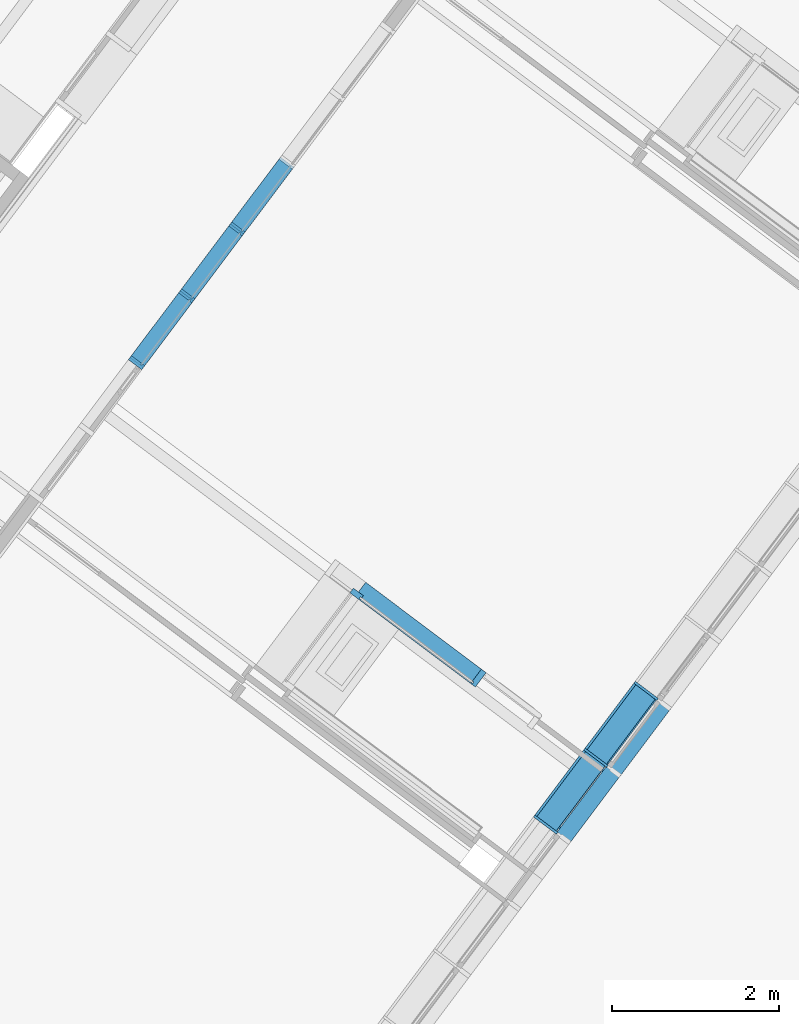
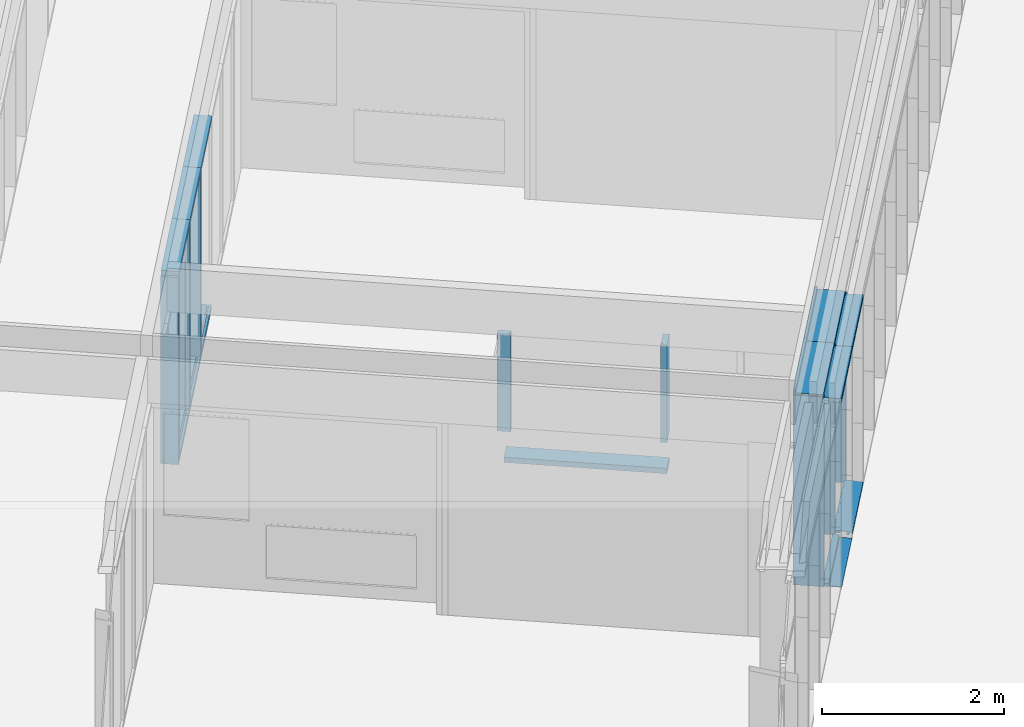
# One storey, part 13 of 243: 21 members, 4 elements without a shape of their own.
"""IFC2X3 building model written with IfcOpenShell, lengths in metres."""

from ifc_helpers import new_model, entity, si_unit, converted_unit, derived_unit, direction, frame, frame_2d, origin, place, context, subcontext, project, spatial, polyline, circle_curve, parameter, trimmed, segment, composite_curve, rectangle, outline, extrude, source, transform, mapped, material, type_object, type_shapes, element, aggregate, save


model = new_model("IFC2X3")

# Units and contexts
model_context = context("Model", 3, precision=1e-05, world=origin(), true_north=direction((6.123031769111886e-17, 1.0)))
body_context = subcontext(model_context, "Body", "Model", "MODEL_VIEW")
ifc_project = project(units=[si_unit("LENGTHUNIT", "METRE"), si_unit("AREAUNIT", "SQUARE_METRE"), si_unit("VOLUMEUNIT", "CUBIC_METRE"), converted_unit("PLANEANGLEUNIT", "DEGREE", entity("IfcRatioMeasure", 0.017453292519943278), si_unit("PLANEANGLEUNIT", "RADIAN"), dimensions=[0, 0, 0, 0, 0, 0, 0]), si_unit("MASSUNIT", "GRAM", prefix="KILO"), derived_unit("MASSDENSITYUNIT", [(si_unit("MASSUNIT", "GRAM", prefix="KILO"), 1), (si_unit("LENGTHUNIT", "METRE"), -3)]), derived_unit("IONCONCENTRATIONUNIT", [(si_unit("MASSUNIT", "GRAM", prefix="KILO"), 1), (si_unit("LENGTHUNIT", "METRE"), -3)]), derived_unit("MOMENTOFINERTIAUNIT", [(si_unit("LENGTHUNIT", "METRE"), 4)]), si_unit("TIMEUNIT", "SECOND"), si_unit("FREQUENCYUNIT", "HERTZ"), si_unit("THERMODYNAMICTEMPERATUREUNIT", "DEGREE_CELSIUS"), derived_unit("THERMALTRANSMITTANCEUNIT", [(si_unit("MASSUNIT", "GRAM", prefix="KILO"), 1), (si_unit("THERMODYNAMICTEMPERATUREUNIT", "KELVIN"), -1), (si_unit("TIMEUNIT", "SECOND"), -3)]), derived_unit("THERMALCONDUCTANCEUNIT", [(si_unit("MASSUNIT", "GRAM", prefix="KILO"), 1), (si_unit("THERMODYNAMICTEMPERATUREUNIT", "KELVIN"), -1), (si_unit("TIMEUNIT", "SECOND"), -3), (si_unit("LENGTHUNIT", "METRE"), 1)]), derived_unit("VOLUMETRICFLOWRATEUNIT", [(si_unit("LENGTHUNIT", "METRE"), 3), (si_unit("TIMEUNIT", "SECOND"), -1)]), derived_unit("MASSFLOWRATEUNIT", [(si_unit("MASSUNIT", "GRAM", prefix="KILO"), 1), (si_unit("TIMEUNIT", "SECOND"), -1)]), derived_unit("ROTATIONALFREQUENCYUNIT", [(si_unit("TIMEUNIT", "SECOND"), -1)]), si_unit("ELECTRICCURRENTUNIT", "AMPERE"), si_unit("ELECTRICVOLTAGEUNIT", "VOLT"), si_unit("POWERUNIT", "WATT"), si_unit("FORCEUNIT", "NEWTON", prefix="KILO"), si_unit("ILLUMINANCEUNIT", "LUX"), si_unit("LUMINOUSFLUXUNIT", "LUMEN"), si_unit("LUMINOUSINTENSITYUNIT", "CANDELA"), derived_unit("USERDEFINED", [(si_unit("MASSUNIT", "GRAM", prefix="KILO"), -1), (si_unit("LENGTHUNIT", "METRE"), -2), (si_unit("TIMEUNIT", "SECOND"), 3), (si_unit("LUMINOUSFLUXUNIT", "LUMEN"), 1)]), derived_unit("USERDEFINED", [(si_unit("MASSUNIT", "GRAM", prefix="KILO"), 1), (si_unit("TIMEUNIT", "SECOND"), -3), (si_unit("LENGTHUNIT", "METRE"), 3), (si_unit("ELECTRICCURRENTUNIT", "AMPERE"), -2)]), derived_unit("SOUNDPOWERUNIT", [(si_unit("MASSUNIT", "GRAM", prefix="KILO"), 1), (si_unit("TIMEUNIT", "SECOND"), -3), (si_unit("LENGTHUNIT", "METRE"), 2)]), derived_unit("SOUNDPRESSUREUNIT", [(si_unit("MASSUNIT", "GRAM", prefix="KILO"), 1), (si_unit("LENGTHUNIT", "METRE"), -1), (si_unit("TIMEUNIT", "SECOND"), -2)]), derived_unit("LINEARVELOCITYUNIT", [(si_unit("LENGTHUNIT", "METRE"), 1), (si_unit("TIMEUNIT", "SECOND"), -1)]), si_unit("PRESSUREUNIT", "PASCAL"), derived_unit("USERDEFINED", [(si_unit("MASSUNIT", "GRAM", prefix="KILO"), 1), (si_unit("LENGTHUNIT", "METRE"), -2), (si_unit("TIMEUNIT", "SECOND"), -2)]), derived_unit("LINEARFORCEUNIT", [(si_unit("MASSUNIT", "GRAM", prefix="KILO"), 1), (si_unit("TIMEUNIT", "SECOND"), -2)]), derived_unit("PLANARFORCEUNIT", [(si_unit("MASSUNIT", "GRAM", prefix="KILO"), 1), (si_unit("LENGTHUNIT", "METRE"), -1), (si_unit("TIMEUNIT", "SECOND"), -2)]), derived_unit("SPECIFICHEATCAPACITYUNIT", [(si_unit("THERMODYNAMICTEMPERATUREUNIT", "KELVIN"), -1), (si_unit("LENGTHUNIT", "METRE"), 2), (si_unit("TIMEUNIT", "SECOND"), -2)]), derived_unit("HEATINGVALUEUNIT", [(si_unit("LENGTHUNIT", "METRE"), 2), (si_unit("TIMEUNIT", "SECOND"), -2)]), derived_unit("VAPORPERMEABILITYUNIT", [(si_unit("LENGTHUNIT", "METRE"), -1), (si_unit("TIMEUNIT", "SECOND"), 1)]), derived_unit("DYNAMICVISCOSITYUNIT", [(si_unit("MASSUNIT", "GRAM", prefix="KILO"), 1), (si_unit("TIMEUNIT", "SECOND"), -1), (si_unit("LENGTHUNIT", "METRE"), -1)]), derived_unit("THERMALEXPANSIONCOEFFICIENTUNIT", [(si_unit("THERMODYNAMICTEMPERATUREUNIT", "KELVIN"), -1)]), derived_unit("MODULUSOFELASTICITYUNIT", [(si_unit("MASSUNIT", "GRAM", prefix="KILO"), 1), (si_unit("LENGTHUNIT", "METRE"), -1), (si_unit("TIMEUNIT", "SECOND"), -2)]), derived_unit("ISOTHERMALMOISTURECAPACITYUNIT", [(si_unit("LENGTHUNIT", "METRE"), 3), (si_unit("MASSUNIT", "GRAM", prefix="KILO"), -1)]), derived_unit("MOISTUREDIFFUSIVITYUNIT", [(si_unit("TIMEUNIT", "SECOND"), -1), (si_unit("LENGTHUNIT", "METRE"), 2)])], contexts=[model_context])

# Site, building, storey
site_placement = place(None, frame((0.0, 0.0, 235.0), z_axis=(0.0, 0.0, 1.0), x_axis=(-0.7996477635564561, 0.6004693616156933, 0.0)))
site = spatial("IfcSite", under=ifc_project, at=site_placement, Name="Default", CompositionType="ELEMENT")
building_placement = place(site_placement, origin())
building = spatial("IfcBuilding", under=site, at=building_placement, CompositionType="ELEMENT")
storey_placement = place(building_placement, origin())
storey = spatial("IfcBuildingStorey", under=building, at=storey_placement, Name="P0- Escola", CompositionType="ELEMENT", Elevation=0.0)

# Curtain wall, members
curtain_wall_type_1 = type_object("IfcCurtainWallType", Name="Muro cortina:MC- INT- a3", PredefinedType="NOTDEFINED")
curtain_wall_1_placement = place(storey_placement, origin())
curtain_wall_1 = element("IfcCurtainWall", 1, at=curtain_wall_1_placement, inside=storey, type_object=curtain_wall_type_1, Name="Muro cortina:MC- INT- a3", ObjectType="Muro cortina:MC- INT- a3")
ifc_material_1 = material(Name="_Fusta massisa- T1")
member_type_1 = type_object("IfcMemberType", Name="Montante rectangular:MC- Fusta- 20x6 cm- Centre", PredefinedType="MULLION", material=ifc_material_1)
shared_shape_1 = source(origin(), body_context, "Body", "SweptSolid", [
    extrude(outline(polyline([(-0.14, -0.03), (0.009999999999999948, -0.03), (0.009999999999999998, -0.014999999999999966), (0.030000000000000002, -0.015), (0.030000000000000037, -0.030000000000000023), (0.060000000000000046, -0.029999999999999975), (0.059999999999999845, 0.030000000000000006), (0.030000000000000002, 0.029999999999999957), (0.030000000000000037, 0.015), (0.010000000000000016, 0.015), (0.010000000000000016, 0.03), (-0.14, 0.03), (-0.14, -0.03)])), frame((0.0, 0.019999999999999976, -2.505000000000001), z_axis=(0.0, 0.0, 1.0), x_axis=(0.0, -1.0, 0.0)), (0.0, 0.0, 1.0), 2.5050000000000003),
])
type_shapes(member_type_1, [shared_shape_1])
member_1_placement = place(curtain_wall_1_placement, frame((13.279147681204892, -30.470191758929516, 0.0), z_axis=(0.0, 0.0, -1.0), x_axis=(0.0, 1.0, 0.0)))
member_1 = element("IfcMember", 2, at=member_1_placement, type_object=member_type_1, material=ifc_material_1, Name="Montante rectangular:MC- Fusta- 20x6 cm- Centre", ObjectType="Montante rectangular:MC- Fusta- 20x6 cm- Centre", context=body_context, shape_type="MappedRepresentation", body=[
    mapped(shared_shape_1, transform((0.0, 0.0, 0.0), scale=1.0)),
])
member_2_placement = place(curtain_wall_1_placement, frame((13.27914768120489, -29.470191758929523, 0.0), z_axis=(0.0, 0.0, -1.0), x_axis=(0.0, 1.0, 0.0)))
member_2 = element("IfcMember", 3, at=member_2_placement, type_object=member_type_1, material=ifc_material_1, Name="Montante rectangular:MC- Fusta- 20x6 cm- Centre", ObjectType="Montante rectangular:MC- Fusta- 20x6 cm- Centre", context=body_context, shape_type="MappedRepresentation", body=[
    mapped(shared_shape_1, transform((0.0, 0.0, 0.0), scale=1.0)),
])
member_type_2 = type_object("IfcMemberType", Name="Montante rectangular:MC- Fusta- 20x6 cm- Esquerra", PredefinedType="MULLION", material=ifc_material_1)
shared_shape_2 = source(origin(), body_context, "Body", "SweptSolid", [
    extrude(outline(polyline([(-0.12999999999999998, -0.018750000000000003), (0.019999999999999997, -0.018750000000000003), (0.019999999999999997, -0.003750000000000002), (0.04000000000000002, -0.003750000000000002), (0.04000000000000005, -0.01875000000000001), (0.07000000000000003, -0.018750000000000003), (0.06999999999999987, 0.041249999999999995), (-0.12999999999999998, 0.041249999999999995), (-0.12999999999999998, -0.018750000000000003)])), frame((-0.041249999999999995, 0.029999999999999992, -1.0), z_axis=(0.0, 0.0, 1.0), x_axis=(0.0, -1.0, 0.0)), (0.0, 0.0, 1.0), 0.9999999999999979),
])
type_shapes(member_type_2, [shared_shape_2])
member_3_placement = place(curtain_wall_1_placement, frame((13.279147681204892, -30.470191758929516, 2.565), z_axis=(0.0, 1.0, 0.0), x_axis=(0.0, 0.0, 1.0)))
member_3 = element("IfcMember", 4, at=member_3_placement, type_object=member_type_2, material=ifc_material_1, Name="Montante rectangular:MC- Fusta- 20x6 cm- Esquerra", ObjectType="Montante rectangular:MC- Fusta- 20x6 cm- Esquerra", context=body_context, shape_type="MappedRepresentation", body=[
    mapped(shared_shape_2, transform((0.0, 0.0, 0.0), scale=1.0)),
])
member_4_placement = place(curtain_wall_1_placement, frame((13.27914768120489, -29.47019175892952, 2.565), z_axis=(0.0, 1.0, 0.0), x_axis=(0.0, 0.0, 1.0)))
member_4 = element("IfcMember", 5, at=member_4_placement, type_object=member_type_2, material=ifc_material_1, Name="Montante rectangular:MC- Fusta- 20x6 cm- Esquerra", ObjectType="Montante rectangular:MC- Fusta- 20x6 cm- Esquerra", context=body_context, shape_type="MappedRepresentation", body=[
    mapped(shared_shape_2, transform((0.0, 0.0, 0.0), scale=1.0)),
])
member_5_placement = place(curtain_wall_1_placement, frame((13.279147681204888, -28.47019175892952, 2.565), z_axis=(0.0, 1.0, 0.0), x_axis=(0.0, 0.0, 1.0)))
member_5 = element("IfcMember", 6, at=member_5_placement, type_object=member_type_2, material=ifc_material_1, Name="Montante rectangular:MC- Fusta- 20x6 cm- Esquerra", ObjectType="Montante rectangular:MC- Fusta- 20x6 cm- Esquerra", context=body_context, shape_type="MappedRepresentation", body=[
    mapped(shared_shape_2, transform((0.0, 0.0, 0.0), scale=1.0)),
])
member_type_3 = type_object("IfcMemberType", Name="Montante rectangular:MC- Fusta- 20x6 cm- Esquerra", PredefinedType="MULLION", material=ifc_material_1)
shared_shape_3 = source(origin(), body_context, "Body", "SweptSolid", [
    extrude(outline(polyline([(-0.13, -0.018750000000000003), (0.02, -0.018750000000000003), (0.02, -0.003750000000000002), (0.04000000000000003, -0.003750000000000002), (0.04000000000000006, -0.01875000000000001), (0.07000000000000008, -0.018750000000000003), (0.06999999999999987, 0.041249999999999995), (-0.13, 0.041249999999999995), (-0.13, -0.018750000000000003)])), frame((-0.01124999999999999, 0.029999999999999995, -2.5050000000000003), z_axis=(0.0, 0.0, 1.0), x_axis=(0.0, -1.0, 0.0)), (0.0, 0.0, 1.0), 2.5050000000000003),
])
type_shapes(member_type_3, [shared_shape_3])
member_6_placement = place(curtain_wall_1_placement, frame((13.279147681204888, -28.47019175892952, 0.0), z_axis=(0.0, 0.0, -1.0), x_axis=(0.0, 1.0, 0.0)))
member_6 = element("IfcMember", 7, at=member_6_placement, type_object=member_type_3, material=ifc_material_1, Name="Montante rectangular:MC- Fusta- 20x6 cm- Esquerra", ObjectType="Montante rectangular:MC- Fusta- 20x6 cm- Esquerra", context=body_context, shape_type="MappedRepresentation", body=[
    mapped(shared_shape_3, transform((0.0, 0.0, 0.0), scale=1.0)),
])
member_type_4 = type_object("IfcMemberType", Name="Montante rectangular:MC- Fusta- 20x6 cm- Inferior", PredefinedType="MULLION", material=ifc_material_1)
shared_shape_4 = source(origin(), body_context, "Body", "SweptSolid", [
    extrude(outline(polyline([(-0.12999999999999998, -0.018750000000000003), (0.01999999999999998, -0.018750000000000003), (0.01999999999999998, -0.0037500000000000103), (0.04, -0.0037500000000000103), (0.039999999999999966, -0.018750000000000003), (0.06999999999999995, -0.018750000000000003), (0.07000000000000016, 0.041249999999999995), (-0.12999999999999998, 0.041249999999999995), (-0.12999999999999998, -0.018750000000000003)])), frame((-0.041249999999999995, 0.029999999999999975, -0.9399999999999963), z_axis=(0.0, 0.0, 1.0), x_axis=(0.0, -1.0, 0.0)), (0.0, 0.0, 1.0), 0.9399999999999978),
])
type_shapes(member_type_4, [shared_shape_4])
member_7_placement = place(curtain_wall_1_placement, frame((13.279147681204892, -31.44019175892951, 0.0), z_axis=(0.0, -1.0, 0.0), x_axis=(0.0, 0.0, -1.0)))
member_7 = element("IfcMember", 8, at=member_7_placement, type_object=member_type_4, material=ifc_material_1, Name="Montante rectangular:MC- Fusta- 20x6 cm- Inferior", ObjectType="Montante rectangular:MC- Fusta- 20x6 cm- Inferior", context=body_context, shape_type="MappedRepresentation", body=[
    mapped(shared_shape_4, transform((0.0, 0.0, 0.0), scale=1.0)),
])
member_8_placement = place(curtain_wall_1_placement, frame((13.279147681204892, -30.440191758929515, 0.0), z_axis=(0.0, -1.0, 0.0), x_axis=(0.0, 0.0, -1.0)))
member_8 = element("IfcMember", 9, at=member_8_placement, type_object=member_type_4, material=ifc_material_1, Name="Montante rectangular:MC- Fusta- 20x6 cm- Inferior", ObjectType="Montante rectangular:MC- Fusta- 20x6 cm- Inferior", context=body_context, shape_type="MappedRepresentation", body=[
    mapped(shared_shape_4, transform((0.0, 0.0, 0.0), scale=1.0)),
])
member_9_placement = place(curtain_wall_1_placement, frame((13.27914768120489, -29.440191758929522, 0.0), z_axis=(0.0, -1.0, 0.0), x_axis=(0.0, 0.0, -1.0)))
member_9 = element("IfcMember", 10, at=member_9_placement, type_object=member_type_4, material=ifc_material_1, Name="Montante rectangular:MC- Fusta- 20x6 cm- Inferior", ObjectType="Montante rectangular:MC- Fusta- 20x6 cm- Inferior", context=body_context, shape_type="MappedRepresentation", body=[
    mapped(shared_shape_4, transform((0.0, 0.0, 0.0), scale=1.0)),
])
aggregate(curtain_wall_1, [member_3, member_1, member_4, member_2, member_5, member_6, member_7, member_8, member_9])

curtain_wall_type_2 = type_object("IfcCurtainWallType", Name="Muro cortina:MC- INT- k1", PredefinedType="NOTDEFINED")
curtain_wall_2_placement = place(storey_placement, origin())
curtain_wall_2 = element("IfcCurtainWall", 11, at=curtain_wall_2_placement, inside=storey, type_object=curtain_wall_type_2, Name="Muro cortina:MC- INT- k1", ObjectType="Muro cortina:MC- INT- k1")
member_type_5 = type_object("IfcMemberType", Name="Montante rectangular:MC- Fusta- 21,4x7 cm- Neutre- Bany infantil", PredefinedType="MULLION", material=ifc_material_1)
shared_shape_5 = source(origin(), body_context, "Body", "SweptSolid", [
    extrude(rectangle(XDim=0.21400000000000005, YDim=0.06999999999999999, at=frame_2d((-5.551115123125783e-17, 0.0), x_axis=(1.0, 0.0))), frame((0.0, -0.08099999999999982, -1.8010000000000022), z_axis=(0.0, 0.0, 1.0), x_axis=(0.0, -1.0, 0.0)), (0.0, 0.0, 1.0), 1.8010000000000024),
])
type_shapes(member_type_5, [shared_shape_5])
member_10_placement = place(curtain_wall_2_placement, frame((7.769147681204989, -27.827191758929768, 0.8199999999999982), z_axis=(-1.0, 0.0, 0.0), x_axis=(0.0, 0.0, 1.0)))
member_10 = element("IfcMember", 12, at=member_10_placement, type_object=member_type_5, material=ifc_material_1, Name="Montante rectangular:MC- Fusta- 21,4x7 cm- Neutre- Bany infantil", ObjectType="Montante rectangular:MC- Fusta- 21,4x7 cm- Neutre- Bany infantil", context=body_context, shape_type="MappedRepresentation", body=[
    mapped(shared_shape_5, transform((0.0, 0.0, 0.0), scale=1.0)),
])
member_type_6 = type_object("IfcMemberType", Name="Montante rectangular:PerfilBany-Dreta", PredefinedType="MULLION", material=ifc_material_1)
shared_shape_6 = source(origin(), body_context, "Body", "SweptSolid", [
    extrude(outline(polyline([(-0.03050000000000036, -0.1075), (0.0394999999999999, -0.1075), (0.0394999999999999, 0.04250000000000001), (0.0055000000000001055, 0.04250000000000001), (0.0055000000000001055, 0.022500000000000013), (-0.014499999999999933, 0.022500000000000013), (-0.014499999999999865, 0.04249999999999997), (-0.030499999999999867, 0.04249999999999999), (-0.03050000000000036, -0.1075)])), frame((0.03250000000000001, -0.0045000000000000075, -1.304999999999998), z_axis=(0.0, 0.0, 1.0), x_axis=(0.0, -1.0, 0.0)), (0.0, 0.0, 1.0), 1.304999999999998),
])
type_shapes(member_type_6, [shared_shape_6])
member_11_placement = place(curtain_wall_2_placement, frame((9.57014768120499, -27.82719175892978, 1.2000000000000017), z_axis=(0.0, 0.0, -1.0), x_axis=(-1.0, 0.0, 0.0)))
member_11 = element("IfcMember", 13, at=member_11_placement, type_object=member_type_6, material=ifc_material_1, Name="Montante rectangular:PerfilBany-Dreta", ObjectType="Montante rectangular:PerfilBany-Dreta", context=body_context, shape_type="MappedRepresentation", body=[
    mapped(shared_shape_6, transform((0.0, 0.0, 0.0), scale=1.0)),
])
member_type_7 = type_object("IfcMemberType", Name="Montante rectangular:MC- Fusta- 21,4x7 cm- Esquerra- Bany infantil", PredefinedType="MULLION", material=ifc_material_1)
shared_shape_7 = source(origin(), body_context, "Body", "SweptSolid", [
    extrude(outline(polyline([(-0.06649999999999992, -0.02249999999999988), (-0.05049999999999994, -0.02249999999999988), (-0.050499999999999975, -0.0024999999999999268), (-0.030499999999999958, -0.002499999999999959), (-0.030499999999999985, -0.022499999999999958), (0.14749999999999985, -0.022500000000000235), (0.14749999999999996, 0.04749999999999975), (-0.06650000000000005, 0.04750000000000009), (-0.06649999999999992, -0.02249999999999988)])), frame((-0.012500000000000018, -0.04049999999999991, -1.304999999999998), z_axis=(0.0, 0.0, 1.0), x_axis=(0.0, -1.0, 0.0)), (0.0, 0.0, 1.0), 1.304999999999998),
])
type_shapes(member_type_7, [shared_shape_7])
member_12_placement = place(curtain_wall_2_placement, frame((7.804147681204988, -27.827191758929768, 1.2000000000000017), z_axis=(0.0, 0.0, -1.0), x_axis=(-1.0, 0.0, 0.0)))
member_12 = element("IfcMember", 14, at=member_12_placement, type_object=member_type_7, material=ifc_material_1, Name="Montante rectangular:MC- Fusta- 21,4x7 cm- Esquerra- Bany infantil", ObjectType="Montante rectangular:MC- Fusta- 21,4x7 cm- Esquerra- Bany infantil", context=body_context, shape_type="MappedRepresentation", body=[
    mapped(shared_shape_7, transform((0.0, 0.0, 0.0), scale=1.0)),
])
aggregate(curtain_wall_2, [member_10, member_11, member_12])

curtain_wall_type_3 = type_object("IfcCurtainWallType", Name="Muro cortina:MC- EXT- MC2", PredefinedType="NOTDEFINED")
curtain_wall_3_placement = place(storey_placement, origin())
curtain_wall_3 = element("IfcCurtainWall", 15, at=curtain_wall_3_placement, inside=storey, type_object=curtain_wall_type_3, Name="Muro cortina:MC- EXT- MC2", ObjectType="Muro cortina:MC- EXT- MC2")
ifc_material_2 = material(Name="_Alumini- T1- Perfil")
member_type_8 = type_object("IfcMemberType", Name="Montante rectangular:MC- Alu- 140x52,5 cm- Fa patis- inferior porta reixa", PredefinedType="MULLION", material=ifc_material_2)
shared_shape_8 = source(origin(), body_context, "Body", "SweptSolid", [
    extrude(outline(polyline([(0.02123333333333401, -0.026000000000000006), (0.09753333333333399, -0.026000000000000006), (0.09753333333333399, 0.013999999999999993), (-0.11876666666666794, 0.013999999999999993), (-0.11876666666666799, 0.012000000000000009), (0.021233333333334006, 0.012000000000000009), (0.02123333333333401, -0.026000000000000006)])), frame((-0.01400000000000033, 0.02123333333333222, -0.947499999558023), z_axis=(0.0, 0.0, 1.0), x_axis=(0.0, -1.0, 0.0)), (0.0, 0.0, 1.0), 0.9474999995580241),
])
type_shapes(member_type_8, [shared_shape_8])
member_13_placement = place(curtain_wall_3_placement, frame((5.885147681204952, -27.016441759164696, -0.02), z_axis=(0.0, 1.0, 0.0), x_axis=(0.0, 0.0, -1.0)))
member_13 = element("IfcMember", 16, at=member_13_placement, type_object=member_type_8, material=ifc_material_2, Name="Montante rectangular:MC- Alu- 140x52,5 cm- Fa patis- inferior porta reixa", ObjectType="Montante rectangular:MC- Alu- 140x52,5 cm- Fa patis- inferior porta reixa", context=body_context, shape_type="MappedRepresentation", body=[
    mapped(shared_shape_8, transform((0.0, 0.0, 0.0), scale=1.0)),
])
member_type_9 = type_object("IfcMemberType", Name="Montante rectangular:MC- Alu- 140x52,5 cm- Fa patis- Superior", PredefinedType="MULLION", material=ifc_material_2)
shared_shape_9 = source(origin(), body_context, "Body", "SweptSolid", [
    extrude(outline(polyline([(-0.11366666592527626, -0.021249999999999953), (0.026333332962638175, -0.021249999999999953), (0.026333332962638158, -0.010000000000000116), (0.0873333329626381, -0.010000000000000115), (0.0873333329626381, 0.03125000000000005), (-0.11366666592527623, 0.031250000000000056), (-0.11366666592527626, -0.021249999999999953)])), frame((-0.031250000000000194, 0.0273333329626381, -1.0), z_axis=(0.0, 0.0, 1.0), x_axis=(0.0, -1.0, 0.0)), (0.0, 0.0, 1.0), 0.9999999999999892),
])
type_shapes(member_type_9, [shared_shape_9])
member_14_placement = place(curtain_wall_3_placement, frame((5.885147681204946, -27.990191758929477, 2.525), z_axis=(0.0, -1.0, 0.0), x_axis=(0.0, 0.0, 1.0)))
member_14 = element("IfcMember", 17, at=member_14_placement, type_object=member_type_9, material=ifc_material_2, Name="Montante rectangular:MC- Alu- 140x52,5 cm- Fa patis- Superior", ObjectType="Montante rectangular:MC- Alu- 140x52,5 cm- Fa patis- Superior", context=body_context, shape_type="MappedRepresentation", body=[
    mapped(shared_shape_9, transform((0.0, 0.0, 0.0), scale=1.0)),
])
member_15_placement = place(curtain_wall_3_placement, frame((5.88514768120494, -28.990191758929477, 2.525), z_axis=(0.0, -1.0, 0.0), x_axis=(0.0, 0.0, 1.0)))
member_15 = element("IfcMember", 18, at=member_15_placement, type_object=member_type_9, material=ifc_material_2, Name="Montante rectangular:MC- Alu- 140x52,5 cm- Fa patis- Superior", ObjectType="Montante rectangular:MC- Alu- 140x52,5 cm- Fa patis- Superior", context=body_context, shape_type="MappedRepresentation", body=[
    mapped(shared_shape_9, transform((0.0, 0.0, 0.0), scale=1.0)),
])
member_type_10 = type_object("IfcMemberType", Name="Montante rectangular:MC- Alu- 140x52,5 cm- Fa patis- inferior", PredefinedType="MULLION", material=ifc_material_2)
shared_shape_10 = source(origin(), body_context, "Body", "SweptSolid", [
    extrude(outline(composite_curve([segment(polyline([(0.1278672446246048, -0.02586710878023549), (0.14416724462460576, -0.025867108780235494)]), True, "CONTINUOUS"), segment(polyline([(0.14416724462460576, -0.025867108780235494), (0.1441672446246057, 0.009132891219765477)]), True, "CONTINUOUS"), segment(polyline([(0.1441672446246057, 0.009132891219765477), (0.06786724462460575, 0.009132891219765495)]), True, "CONTINUOUS"), segment(polyline([(0.06786724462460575, 0.009132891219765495), (0.06786724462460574, -0.021159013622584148)]), True, "CONTINUOUS"), segment(polyline([(0.06786724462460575, -0.02115901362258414), (-0.030132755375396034, -0.012332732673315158)]), True, "CONTINUOUS"), segment(polyline([(-0.03013275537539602, -0.012332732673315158), (-0.030132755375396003, 0.027132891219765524)]), True, "CONTINUOUS"), segment(polyline([(-0.030132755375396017, 0.02713289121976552), (-0.0021327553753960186, 0.02713289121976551)]), True, "CONTINUOUS"), segment(polyline([(-0.0021327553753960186, 0.027132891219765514), (-0.0021327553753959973, 0.029132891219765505)]), True, "CONTINUOUS"), segment(polyline([(-0.0021327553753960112, 0.029132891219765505), (-0.032132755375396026, 0.029132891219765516)]), True, "CONTINUOUS"), segment(polyline([(-0.032132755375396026, 0.029132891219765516), (-0.03213275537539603, -0.012152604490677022)]), True, "CONTINUOUS"), segment(polyline([(-0.03213275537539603, -0.012152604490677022), (-0.0701327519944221, -0.008730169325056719)]), True, "CONTINUOUS"), segment(polyline([(-0.0701327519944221, -0.008730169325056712), (-0.0701327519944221, 0.005766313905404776)]), True, "CONTINUOUS"), segment(trimmed(circle_curve(frame_2d((-0.0696327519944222, 0.0057663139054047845), x_axis=(-1.0, 0.0)), 0.0004999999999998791), [parameter(269.999999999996)], [parameter(0.0)], True, "PARAMETER"), False, "CONTINUOUS"), segment(polyline([(-0.0696327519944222, 0.00626631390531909), (-0.06213275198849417, 0.006266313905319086)]), True, "CONTINUOUS"), segment(polyline([(-0.06213275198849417, 0.006266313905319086), (-0.06213275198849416, 0.008266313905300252)]), True, "CONTINUOUS"), segment(polyline([(-0.06213275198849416, 0.008266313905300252), (-0.07013275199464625, 0.008266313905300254)]), True, "CONTINUOUS"), segment(trimmed(circle_curve(frame_2d((-0.07013275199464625, 0.006266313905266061), x_axis=(0.0, 1.0)), 0.0020000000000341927), [parameter(0.0)], [parameter(90.00000002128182)], True, "PARAMETER"), True, "CONTINUOUS"), segment(polyline([(-0.07213275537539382, 0.006266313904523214), (-0.07213275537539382, -0.008730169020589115)]), True, "CONTINUOUS"), segment(trimmed(circle_curve(frame_2d((-0.07013275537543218, -0.008730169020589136), x_axis=(-1.0, 0.0)), 0.0019999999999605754), [parameter(0.0)], [parameter(84.85359280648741)], True, "PARAMETER"), True, "CONTINUOUS"), segment(polyline([(-0.07031215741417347, -0.01072210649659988), (0.06786724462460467, -0.023167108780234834)]), True, "CONTINUOUS"), segment(polyline([(0.06786724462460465, -0.023167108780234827), (0.12786724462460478, -0.023167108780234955)]), True, "CONTINUOUS"), segment(polyline([(0.12786724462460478, -0.023167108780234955), (0.1278672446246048, -0.02586710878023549)]), True, "CONTINUOUS")], self_intersect=False)), frame((-0.029132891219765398, 0.06786724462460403, -0.9737499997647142), z_axis=(0.0, 0.0, 1.0), x_axis=(0.0, -1.0, 0.0)), (0.0, 0.0, 1.0), 0.9737499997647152),
])
type_shapes(member_type_10, [shared_shape_10])
member_16_placement = place(curtain_wall_3_placement, frame((5.885147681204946, -28.016441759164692, -0.02), z_axis=(0.0, 1.0, 0.0), x_axis=(0.0, 0.0, -1.0)))
member_16 = element("IfcMember", 19, at=member_16_placement, type_object=member_type_10, material=ifc_material_2, Name="Montante rectangular:MC- Alu- 140x52,5 cm- Fa patis- inferior", ObjectType="Montante rectangular:MC- Alu- 140x52,5 cm- Fa patis- inferior", context=body_context, shape_type="MappedRepresentation", body=[
    mapped(shared_shape_10, transform((0.0, 0.0, 0.0), scale=1.0)),
])
aggregate(curtain_wall_3, [member_13, member_14, member_16, member_15])

curtain_wall_type_4 = type_object("IfcCurtainWallType", Name="Muro cortina:MC- INT- k7- Aules infantil", PredefinedType="NOTDEFINED")
curtain_wall_4_placement = place(storey_placement, origin())
curtain_wall_4 = element("IfcCurtainWall", 20, at=curtain_wall_4_placement, inside=storey, type_object=curtain_wall_type_4, Name="Muro cortina:MC- INT- k7- Aules infantil", ObjectType="Muro cortina:MC- INT- k7- Aules infantil")
member_type_11 = type_object("IfcMemberType", Name="Montante rectangular:MC- Fusta- 35x3 cm- Pati aules- Remat superior", PredefinedType="MULLION", material=ifc_material_1)
shared_shape_11 = source(origin(), body_context, "Body", "SweptSolid", [
    extrude(outline(polyline([(-0.2133333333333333, -0.02666666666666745), (0.12166666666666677, -0.02666666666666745), (0.1216666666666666, 0.03333333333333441), (0.09166666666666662, 0.03333333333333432), (0.0916666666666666, -0.006666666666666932), (-0.21333333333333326, -0.006666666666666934), (-0.2133333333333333, -0.02666666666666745)])), frame((-0.033333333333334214, 0.026666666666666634, -1.0), z_axis=(0.0, 0.0, 1.0), x_axis=(0.0, -1.0, 0.0)), (0.0, 0.0, 1.0), 0.9999999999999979),
])
type_shapes(member_type_11, [shared_shape_11])
member_17_placement = place(curtain_wall_4_placement, frame((6.1851476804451, -28.990191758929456, 2.6), z_axis=(0.0, -1.0, 0.0), x_axis=(0.0, 0.0, 1.0)))
member_17 = element("IfcMember", 21, at=member_17_placement, type_object=member_type_11, material=ifc_material_1, Name="Montante rectangular:MC- Fusta- 35x3 cm- Pati aules- Remat superior", ObjectType="Montante rectangular:MC- Fusta- 35x3 cm- Pati aules- Remat superior", context=body_context, shape_type="MappedRepresentation", body=[
    mapped(shared_shape_11, transform((0.0, 0.0, 0.0), scale=1.0)),
])
member_18_placement = place(curtain_wall_4_placement, frame((6.185147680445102, -27.990191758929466, 2.6), z_axis=(0.0, -1.0, 0.0), x_axis=(0.0, 0.0, 1.0)))
member_18 = element("IfcMember", 22, at=member_18_placement, type_object=member_type_11, material=ifc_material_1, Name="Montante rectangular:MC- Fusta- 35x3 cm- Pati aules- Remat superior", ObjectType="Montante rectangular:MC- Fusta- 35x3 cm- Pati aules- Remat superior", context=body_context, shape_type="MappedRepresentation", body=[
    mapped(shared_shape_11, transform((0.0, 0.0, 0.0), scale=1.0)),
])
member_type_12 = type_object("IfcMemberType", Name="Montante rectangular:MC- Fusta- 35x3 cm- Centre", PredefinedType="MULLION", material=ifc_material_1)
shared_shape_12 = source(origin(), body_context, "Body", "SweptSolid", [
    extrude(rectangle(XDim=0.3450000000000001, YDim=0.030000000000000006, at=frame_2d((0.0, 1.3964523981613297e-16), x_axis=(1.0, 0.0))), frame((0.0, 0.07750000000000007, -2.5399999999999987), z_axis=(0.0, 0.0, 1.0), x_axis=(0.0, -1.0, 0.0)), (0.0, 0.0, 1.0), 2.5399999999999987),
])
type_shapes(member_type_12, [shared_shape_12])
member_19_placement = place(curtain_wall_4_placement, frame((6.1851476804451, -28.99019175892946, 0.0), z_axis=(0.0, 0.0, -1.0), x_axis=(0.0, -1.0, 0.0)))
member_19 = element("IfcMember", 23, at=member_19_placement, type_object=member_type_12, material=ifc_material_1, Name="Montante rectangular:MC- Fusta- 35x3 cm- Centre", ObjectType="Montante rectangular:MC- Fusta- 35x3 cm- Centre", context=body_context, shape_type="MappedRepresentation", body=[
    mapped(shared_shape_12, transform((0.0, 0.0, 0.0), scale=1.0)),
])
member_20_placement = place(curtain_wall_4_placement, frame((6.185147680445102, -27.99019175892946, 0.0), z_axis=(0.0, 0.0, -1.0), x_axis=(0.0, -1.0, 0.0)))
member_20 = element("IfcMember", 24, at=member_20_placement, type_object=member_type_12, material=ifc_material_1, Name="Montante rectangular:MC- Fusta- 35x3 cm- Centre", ObjectType="Montante rectangular:MC- Fusta- 35x3 cm- Centre", context=body_context, shape_type="MappedRepresentation", body=[
    mapped(shared_shape_12, transform((0.0, 0.0, 0.0), scale=1.0)),
])
member_21_placement = place(curtain_wall_4_placement, frame((6.185147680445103, -26.990191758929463, 0.0), z_axis=(0.0, 0.0, -1.0), x_axis=(0.0, -1.0, 0.0)))
member_21 = element("IfcMember", 25, at=member_21_placement, type_object=member_type_12, material=ifc_material_1, Name="Montante rectangular:MC- Fusta- 35x3 cm- Centre", ObjectType="Montante rectangular:MC- Fusta- 35x3 cm- Centre", context=body_context, shape_type="MappedRepresentation", body=[
    mapped(shared_shape_12, transform((0.0, 0.0, 0.0), scale=1.0)),
])
aggregate(curtain_wall_4, [member_17, member_19, member_18, member_20, member_21])

save(model, "model.ifc")
